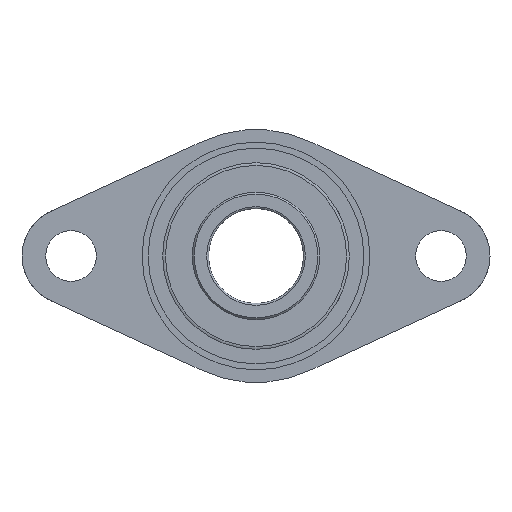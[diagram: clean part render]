
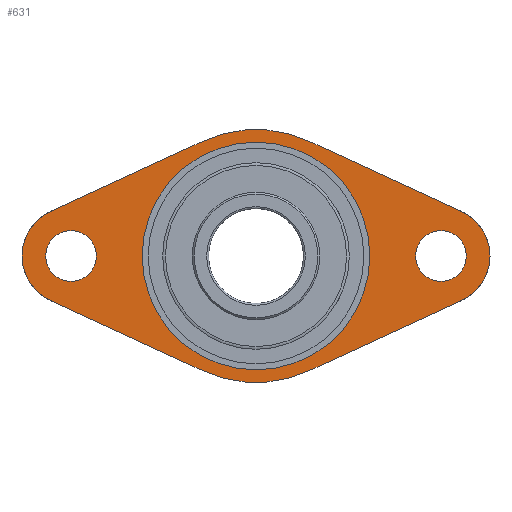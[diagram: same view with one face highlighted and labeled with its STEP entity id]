
A CAD part, left-side view. The second image highlights one B-rep face of the part: STEP entity #631.
In plain terms, the highlighted planar face has unit normal (-1, 0, 0).
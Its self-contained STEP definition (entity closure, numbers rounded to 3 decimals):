
#40 = VERTEX_POINT ( 'NONE', #456 ) ;
#44 = VERTEX_POINT ( 'NONE', #460 ) ;
#46 = VERTEX_POINT ( 'NONE', #467 ) ;
#293 = CARTESIAN_POINT ( 'NONE',  ( -18., -64.991, 14.075 ) ) ;
#451 = DIRECTION ( 'NONE',  ( 0., 0., -1. ) ) ;
#456 = CARTESIAN_POINT ( 'NONE',  ( -18., -58.5, -8. ) ) ;
#460 = CARTESIAN_POINT ( 'NONE',  ( -18., 58.5, -8. ) ) ;
#464 = DIRECTION ( 'NONE',  ( 1., 0., 0. ) ) ;
#467 = CARTESIAN_POINT ( 'NONE',  ( -18., 0., -36. ) ) ;
#540 = VECTOR ( 'NONE', #2731, 1000. ) ;
#561 = LINE ( 'NONE', #2759, #540 ) ;
#570 = VECTOR ( 'NONE', #2780, 1000. ) ;
#583 = LINE ( 'NONE', #2785, #570 ) ;
#587 = VECTOR ( 'NONE', #2792, 1000. ) ;
#588 = CIRCLE ( 'NONE', #1502, 15.5 ) ;
#629 = LINE ( 'NONE', #2800, #587 ) ;
#631 = ADVANCED_FACE ( 'E454', ( #1137, #1121, #1115, #1112 ), #1004, .F. ) ;
#632 = CIRCLE ( 'NONE', #1535, 8. ) ;
#635 = CIRCLE ( 'NONE', #1547, 36. ) ;
#646 = CIRCLE ( 'NONE', #1534, 8. ) ;
#651 = CARTESIAN_POINT ( 'NONE',  ( -18., -64.991, -14.075 ) ) ;
#670 = VECTOR ( 'NONE', #1697, 1000. ) ;
#673 = LINE ( 'NONE', #1680, #670 ) ;
#675 = CARTESIAN_POINT ( 'NONE',  ( -18., 64.991, 14.075 ) ) ;
#693 = CIRCLE ( 'NONE', #1569, 40. ) ;
#694 = CARTESIAN_POINT ( 'NONE',  ( -18., -58.5, 0. ) ) ;
#695 = CIRCLE ( 'NONE', #1607, 40. ) ;
#699 = DIRECTION ( 'NONE',  ( 1., 0., 0. ) ) ;
#709 = DIRECTION ( 'NONE',  ( 0., 0., -1. ) ) ;
#716 = DIRECTION ( 'NONE',  ( 0., 0., -1. ) ) ;
#719 = CARTESIAN_POINT ( 'NONE',  ( -18., 58.5, 0. ) ) ;
#724 = DIRECTION ( 'NONE',  ( 1., 0., 0. ) ) ;
#742 = CARTESIAN_POINT ( 'NONE',  ( -18., 0., 0. ) ) ;
#768 = CIRCLE ( 'NONE', #1676, 15.5 ) ;
#822 = DIRECTION ( 'NONE',  ( 0., 0., -1. ) ) ;
#828 = EDGE_LOOP ( 'NONE', ( #2755 ) ) ;
#904 = CARTESIAN_POINT ( 'NONE',  ( -18., -58.5, 0. ) ) ;
#914 = DIRECTION ( 'NONE',  ( 1., 0., 0. ) ) ;
#915 = EDGE_LOOP ( 'NONE', ( #2733, #2732, #2722, #2720, #2712, #2696, #2694, #2692 ) ) ;
#1004 = PLANE ( 'NONE',  #2012 ) ;
#1010 = CARTESIAN_POINT ( 'NONE',  ( -18., 0., 0. ) ) ;
#1019 = DIRECTION ( 'NONE',  ( 1., 0., 0. ) ) ;
#1021 = CARTESIAN_POINT ( 'NONE',  ( -18., -16.752, -36.323 ) ) ;
#1028 = DIRECTION ( 'NONE',  ( 0., 0., -1. ) ) ;
#1112 = FACE_OUTER_BOUND ( 'NONE', #915, .T. ) ;
#1115 = FACE_BOUND ( 'NONE', #2171, .T. ) ;
#1121 = FACE_BOUND ( 'NONE', #1384, .T. ) ;
#1137 = FACE_BOUND ( 'NONE', #828, .T. ) ;
#1166 = VERTEX_POINT ( 'NONE', #1484 ) ;
#1355 = VERTEX_POINT ( 'NONE', #293 ) ;
#1384 = EDGE_LOOP ( 'NONE', ( #2750 ) ) ;
#1390 = VERTEX_POINT ( 'NONE', #1738 ) ;
#1440 = VERTEX_POINT ( 'NONE', #1831 ) ;
#1484 = CARTESIAN_POINT ( 'NONE',  ( -18., 64.991, -14.075 ) ) ;
#1502 = AXIS2_PLACEMENT_3D ( 'NONE', #2777, #2775, #2771 ) ;
#1534 = AXIS2_PLACEMENT_3D ( 'NONE', #694, #464, #451 ) ;
#1535 = AXIS2_PLACEMENT_3D ( 'NONE', #719, #724, #716 ) ;
#1547 = AXIS2_PLACEMENT_3D ( 'NONE', #742, #699, #709 ) ;
#1569 = AXIS2_PLACEMENT_3D ( 'NONE', #1730, #1747, #1762 ) ;
#1607 = AXIS2_PLACEMENT_3D ( 'NONE', #2131, #2169, #2065 ) ;
#1676 = AXIS2_PLACEMENT_3D ( 'NONE', #904, #914, #822 ) ;
#1680 = CARTESIAN_POINT ( 'NONE',  ( -18., 64.991, 14.075 ) ) ;
#1696 = VERTEX_POINT ( 'NONE', #2261 ) ;
#1697 = DIRECTION ( 'NONE',  ( 0., -0.908, 0.419 ) ) ;
#1730 = CARTESIAN_POINT ( 'NONE',  ( -18., 0., 0. ) ) ;
#1738 = CARTESIAN_POINT ( 'NONE',  ( -18., -16.752, 36.323 ) ) ;
#1747 = DIRECTION ( 'NONE',  ( 1., 0., 0. ) ) ;
#1762 = DIRECTION ( 'NONE',  ( 0., 0., -1. ) ) ;
#1831 = CARTESIAN_POINT ( 'NONE',  ( -18., 16.752, -36.323 ) ) ;
#2012 = AXIS2_PLACEMENT_3D ( 'NONE', #1010, #1019, #1028 ) ;
#2055 = VERTEX_POINT ( 'NONE', #651 ) ;
#2065 = DIRECTION ( 'NONE',  ( 0., 0., -1. ) ) ;
#2131 = CARTESIAN_POINT ( 'NONE',  ( -18., 0., 0. ) ) ;
#2137 = VERTEX_POINT ( 'NONE', #675 ) ;
#2169 = DIRECTION ( 'NONE',  ( 1., 0., 0. ) ) ;
#2171 = EDGE_LOOP ( 'NONE', ( #2740 ) ) ;
#2175 = EDGE_CURVE ( 'E246', #1355, #2055, #768, .T. ) ;
#2234 = EDGE_CURVE ( 'E350', #2706, #1440, #695, .T. ) ;
#2261 = CARTESIAN_POINT ( 'NONE',  ( -18., 16.752, 36.323 ) ) ;
#2273 = EDGE_CURVE ( 'E214', #1696, #1390, #693, .T. ) ;
#2285 = EDGE_CURVE ( 'E193', #2137, #1696, #673, .T. ) ;
#2320 = EDGE_CURVE ( 'NONE', #46, #46, #635, .T. ) ;
#2327 = EDGE_CURVE ( 'NONE', #44, #44, #632, .T. ) ;
#2332 = EDGE_CURVE ( 'NONE', #40, #40, #646, .T. ) ;
#2368 = EDGE_CURVE ( 'E240', #1355, #1390, #629, .T. ) ;
#2370 = EDGE_CURVE ( 'E382', #1166, #2137, #588, .T. ) ;
#2374 = EDGE_CURVE ( 'E376', #1166, #1440, #583, .T. ) ;
#2387 = EDGE_CURVE ( 'E329', #2055, #2706, #561, .T. ) ;
#2692 = ORIENTED_EDGE ( 'NONE', *, *, #2234, .F. ) ;
#2694 = ORIENTED_EDGE ( 'NONE', *, *, #2374, .T. ) ;
#2696 = ORIENTED_EDGE ( 'NONE', *, *, #2370, .F. ) ;
#2706 = VERTEX_POINT ( 'NONE', #1021 ) ;
#2712 = ORIENTED_EDGE ( 'NONE', *, *, #2285, .F. ) ;
#2720 = ORIENTED_EDGE ( 'NONE', *, *, #2273, .F. ) ;
#2722 = ORIENTED_EDGE ( 'NONE', *, *, #2368, .T. ) ;
#2731 = DIRECTION ( 'NONE',  ( 0., 0.908, -0.419 ) ) ;
#2732 = ORIENTED_EDGE ( 'NONE', *, *, #2175, .F. ) ;
#2733 = ORIENTED_EDGE ( 'NONE', *, *, #2387, .F. ) ;
#2740 = ORIENTED_EDGE ( 'NONE', *, *, #2327, .T. ) ;
#2750 = ORIENTED_EDGE ( 'NONE', *, *, #2332, .T. ) ;
#2755 = ORIENTED_EDGE ( 'NONE', *, *, #2320, .T. ) ;
#2759 = CARTESIAN_POINT ( 'NONE',  ( -18., -64.991, -14.075 ) ) ;
#2771 = DIRECTION ( 'NONE',  ( 0., 0., -1. ) ) ;
#2775 = DIRECTION ( 'NONE',  ( 1., 0., 0. ) ) ;
#2777 = CARTESIAN_POINT ( 'NONE',  ( -18., 58.5, 0. ) ) ;
#2780 = DIRECTION ( 'NONE',  ( 0., -0.908, -0.419 ) ) ;
#2785 = CARTESIAN_POINT ( 'NONE',  ( -18., 64.991, -14.075 ) ) ;
#2792 = DIRECTION ( 'NONE',  ( 0., 0.908, 0.419 ) ) ;
#2800 = CARTESIAN_POINT ( 'NONE',  ( -18., -64.991, 14.075 ) ) ;
